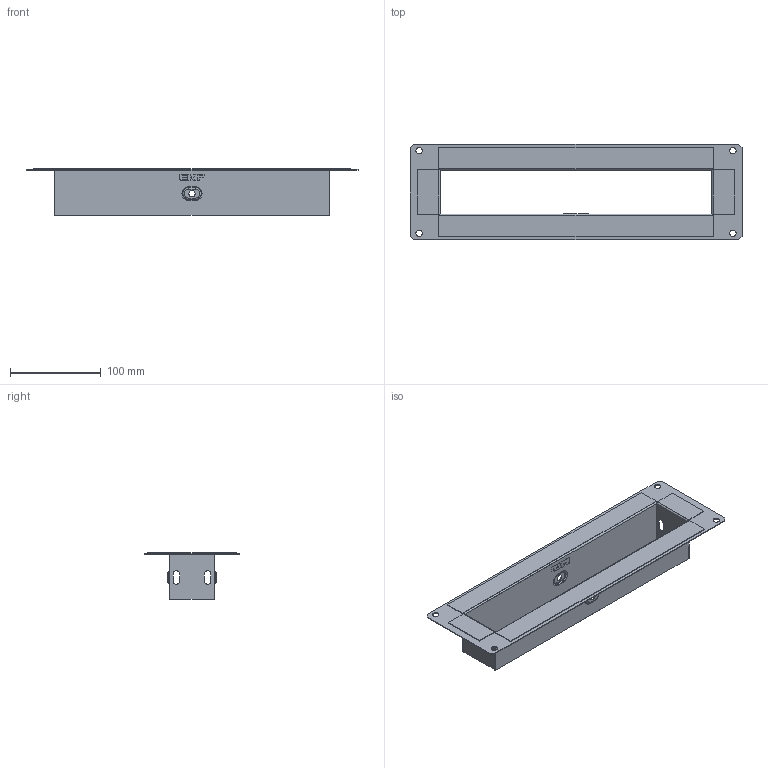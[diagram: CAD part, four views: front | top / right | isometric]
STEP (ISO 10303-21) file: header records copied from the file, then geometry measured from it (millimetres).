
FILE_DESCRIPTION (( 'STEP AP203' ), '1' );
FILE_NAME ('f50300_捘.STEP', '2020-01-23T12:30:03', ( '' ), ( '' ), 'SwSTEP 2.0', 'SolidWorks 2016', '' );
FILE_SCHEMA (( 'CONFIG_CONTROL_DESIGN' ));
Length unit declared in the file: millimetre
Products named in the file (9): f50300_2; f50300_3; f50300_捘; f50300_1
Assembly tree (5 placements, depth 2):
  f50300_捘
    f50300_1
    f50300_2  x2
    f50300_3  x2
  f50300_1
  f50300_2
  f50300_2
  f50300_3
Bounding box: 365 x 105 x 51.5 mm (x, y, z)
Volume: 59697.3 mm3; surface area: 152376.4 mm2
Topology: 5 solids, 5 shells, 306 faces, 792 edges, 512 vertices
Faces by surface type: plane 212, cylinder 60, bspline 18, torus 16
Entity records: 6262 total; most frequent: CARTESIAN_POINT 1358, ORIENTED_EDGE 852, DIRECTION 816, EDGE_CURVE 426, VECTOR 328, LINE 328, VERTEX_POINT 276, AXIS2_PLACEMENT_3D 244
